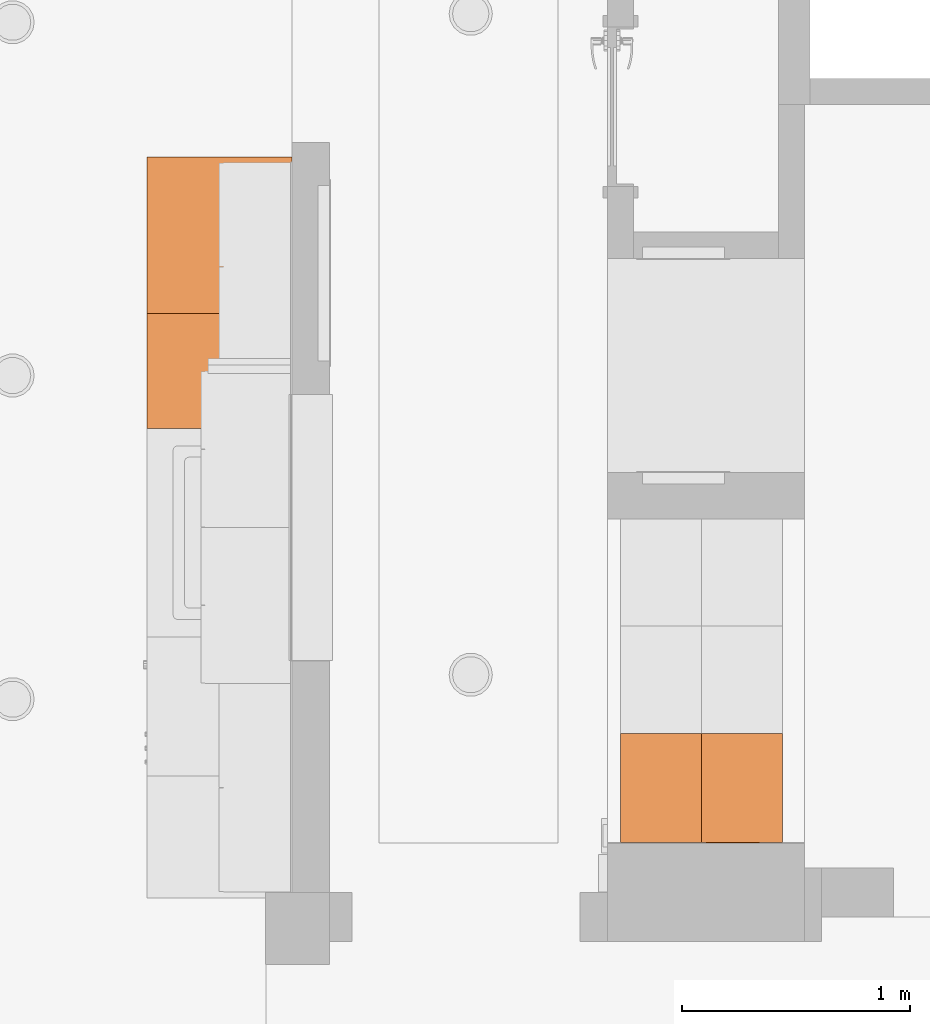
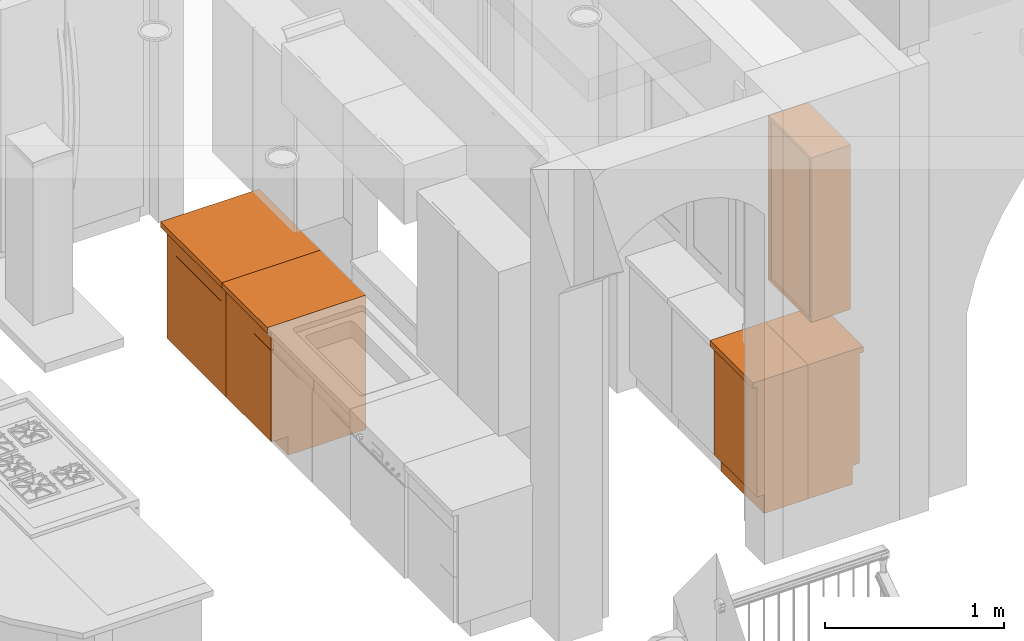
# One storey, part 65 of 77: 5 proxies.
"""IFC2X3 building model written with IfcOpenShell, lengths in inches."""

from ifc_helpers import new_model, entity, si_unit, converted_unit, derived_unit, money_unit, direction, frame, origin_with_axes, place, context, subcontext, project, spatial, faceted_brep, type_object, element, save


model = new_model("IFC2X3")

# Units and contexts
model_context = context("Model", 3, precision=0.000393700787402, world=origin_with_axes(), true_north=direction((0.0, 1.0)))
body_context = subcontext(model_context, "Body", "Model", "MODEL_VIEW")
ifc_project = project(units=[converted_unit("LENGTHUNIT", "INCH", entity("IfcPositiveLengthMeasure", 0.0254), si_unit("LENGTHUNIT", "METRE"), dimensions=[1, 0, 0, 0, 0, 0, 0]), converted_unit("AREAUNIT", "SQUARE_FOOT", entity("IfcPositiveLengthMeasure", 0.09290304), si_unit("AREAUNIT", "SQUARE_METRE"), dimensions=[2, 0, 0, 0, 0, 0, 0]), si_unit("PLANEANGLEUNIT", "RADIAN"), si_unit("SOLIDANGLEUNIT", "STERADIAN"), money_unit("USD"), converted_unit("TIMEUNIT", "Year", entity("IfcTimeMeasure", 31556926.0), si_unit("TIMEUNIT", "SECOND"), dimensions=[0, 0, 1, 0, 0, 0, 0]), si_unit("MASSUNIT", "GRAM", prefix="KILO"), si_unit("THERMODYNAMICTEMPERATUREUNIT", "DEGREE_CELSIUS"), si_unit("LUMINOUSINTENSITYUNIT", "LUMEN"), si_unit("ENERGYUNIT", "JOULE", prefix="MEGA"), derived_unit("THERMALCONDUCTANCEUNIT", [(si_unit("POWERUNIT", "WATT"), 1), (si_unit("LENGTHUNIT", "METRE"), -1), (si_unit("THERMODYNAMICTEMPERATUREUNIT", "KELVIN"), -1)]), derived_unit("SPECIFICHEATCAPACITYUNIT", [(si_unit("ENERGYUNIT", "JOULE"), 1), (si_unit("MASSUNIT", "GRAM", prefix="KILO"), -1), (si_unit("THERMODYNAMICTEMPERATUREUNIT", "KELVIN"), -1)]), derived_unit("MASSDENSITYUNIT", [(si_unit("MASSUNIT", "GRAM", prefix="KILO"), 1), (si_unit("VOLUMEUNIT", "CUBIC_METRE"), -1)])], contexts=[model_context])

# Site, building, storey
site_placement = place(None, origin_with_axes())
site = spatial("IfcSite", under=ifc_project, at=site_placement, Name="Site", CompositionType="ELEMENT")
building_placement = place(site_placement, origin_with_axes())
building = spatial("IfcBuilding", under=site, at=building_placement, Name="Building", CompositionType="ELEMENT")
storey_placement = place(building_placement, frame((0.0, 0.0, 127.952755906), z_axis=(0.0, 0.0, 1.0), x_axis=(1.0, 0.0, 0.0)))
storey = spatial("IfcBuildingStorey", under=building, at=storey_placement, Name="Second Floor", CompositionType="ELEMENT", Elevation=127.953)

# Proxies
building_element_proxy_type_1 = type_object("IfcBuildingElementProxyType", Name="Base Cabinet Block 25", PredefinedType="NOTDEFINED")
proxy_1_placement = place(storey_placement, frame((708.239643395, 218.455837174, 0.0), z_axis=(0.0, 0.0, 1.0), x_axis=(0.0, -1.0, 0.0)))
element("IfcBuildingElementProxy", 1, at=proxy_1_placement, inside=storey, type_object=building_element_proxy_type_1, Name="FU - 004", context=body_context, shape_type="Brep", body=[
    faceted_brep([(0.0, -14.0, 34.4488188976), (0.0, -14.0, 35.9488188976), (-18.8976377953, -14.0, 35.9488188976), (-18.8976377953, -14.0, 34.4488188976), (0.0, 0.0, 34.4488188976), (0.0, 0.0, 35.9488188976), (-18.8976377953, 0.0, 35.9488188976), (-18.8976377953, 0.0, 34.4488188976)], [[[0, 1, 2, 3]], [[4, 5, 1, 0]], [[1, 5, 6, 2]], [[3, 2, 6, 7]], [[0, 3, 7, 4]], [[7, 6, 5, 4]]]),
    faceted_brep([(-0.0393700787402, -12.25, 5.03937007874), (-0.0393700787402, -13.0, 5.03937007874), (-18.8582677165, -13.0, 5.03937007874), (-18.8582677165, -12.25, 5.03937007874), (-0.0393700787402, -12.25, 34.4094488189), (-0.0393700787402, -13.0, 34.4094488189), (-18.8582677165, -13.0, 34.4094488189), (-18.8582677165, -12.25, 34.4094488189)], [[[0, 1, 2, 3]], [[4, 5, 1, 0]], [[1, 5, 6, 2]], [[3, 2, 6, 7]], [[0, 3, 7, 4]], [[7, 6, 5, 4]]]),
    faceted_brep([(-0.75, -12.25, 5.0), (-0.75, -12.25, 5.75), (-18.1476377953, -12.25, 5.75), (-18.1476377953, -12.25, 5.0), (-0.75, 0.0, 5.0), (-0.75, 0.0, 5.75), (-18.1476377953, 0.0, 5.75), (-18.1476377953, 0.0, 5.0)], [[[0, 1, 2, 3]], [[4, 5, 1, 0]], [[1, 5, 6, 2]], [[3, 2, 6, 7]], [[0, 3, 7, 4]], [[7, 6, 5, 4]]]),
    faceted_brep([(-0.75, -12.25, 33.6988188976), (-18.1476377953, -12.25, 33.6988188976), (-18.1476377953, -9.88779527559, 33.6988188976), (-0.75, -9.88779527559, 33.6988188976), (-0.75, -12.25, 34.4488188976), (-18.1476377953, -12.25, 34.4488188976), (-18.1476377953, -9.88779527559, 34.4488188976), (-0.75, -9.88779527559, 34.4488188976)], [[[0, 1, 2, 3]], [[4, 5, 1, 0]], [[1, 5, 6, 2]], [[3, 2, 6, 7]], [[0, 3, 7, 4]], [[7, 6, 5, 4]]]),
    faceted_brep([(-18.1476377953, 0.0, 33.6988188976), (-0.75, 0.0, 33.6988188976), (-0.75, -2.36220472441, 33.6988188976), (-18.1476377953, -2.36220472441, 33.6988188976), (-18.1476377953, 0.0, 34.4488188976), (-0.75, 0.0, 34.4488188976), (-0.75, -2.36220472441, 34.4488188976), (-18.1476377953, -2.36220472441, 34.4488188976)], [[[0, 1, 2, 3]], [[4, 5, 1, 0]], [[1, 5, 6, 2]], [[3, 2, 6, 7]], [[0, 3, 7, 4]], [[7, 6, 5, 4]]]),
    faceted_brep([(0.0, 0.0, 5.0), (0.0, 0.0, 34.4488188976), (0.0, -12.25, 34.4488188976), (0.0, -12.25, 5.0), (-0.75, 0.0, 5.0), (-0.75, 0.0, 34.4488188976), (-0.75, -12.25, 34.4488188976), (-0.75, -12.25, 5.0)], [[[0, 1, 2, 3]], [[4, 5, 1, 0]], [[1, 5, 6, 2]], [[3, 2, 6, 7]], [[0, 3, 7, 4]], [[7, 6, 5, 4]]]),
    faceted_brep([(-18.8976377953, -12.25, 5.0), (-18.8976377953, -12.25, 34.4488188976), (-18.8976377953, 0.0, 34.4488188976), (-18.8976377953, 0.0, 5.0), (-18.1476377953, -12.25, 5.0), (-18.1476377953, -12.25, 34.4488188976), (-18.1476377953, 0.0, 34.4488188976), (-18.1476377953, 0.0, 5.0)], [[[0, 1, 2, 3]], [[4, 5, 1, 0]], [[1, 5, 6, 2]], [[3, 2, 6, 7]], [[0, 3, 7, 4]], [[7, 6, 5, 4]]]),
    faceted_brep([(-18.1476377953, -0.375, 5.75), (-18.1476377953, -0.375, 33.6988188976), (-0.75, -0.375, 33.6988188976), (-0.75, -0.375, 5.75), (-18.1476377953, -0.75, 5.75), (-18.1476377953, -0.75, 33.6988188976), (-0.75, -0.75, 33.6988188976), (-0.75, -0.75, 5.75)], [[[0, 1, 2, 3]], [[4, 5, 1, 0]], [[1, 5, 6, 2]], [[3, 2, 6, 7]], [[0, 3, 7, 4]], [[7, 6, 5, 4]]]),
    faceted_brep([(0.0, -11.25, 0.0), (0.0, -11.25, 5.0), (-18.8976377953, -11.25, 5.0), (-18.8976377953, -11.25, 0.0), (0.0, 0.0, 0.0), (0.0, 0.0, 5.0), (-18.8976377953, 0.0, 5.0), (-18.8976377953, 0.0, 0.0)], [[[0, 1, 2, 3]], [[4, 5, 1, 0]], [[1, 5, 6, 2]], [[3, 2, 6, 7]], [[0, 3, 7, 4]], [[7, 6, 5, 4]]]),
])
proxy_2_placement = place(storey_placement, frame((708.239643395, 218.455837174, 0.0), z_axis=(0.0, 0.0, 1.0), x_axis=(0.0, 1.0, 0.0)))
element("IfcBuildingElementProxy", 2, at=proxy_2_placement, inside=storey, type_object=building_element_proxy_type_1, Name="FU - 004", context=body_context, shape_type="Brep", body=[
    faceted_brep([(0.0, -14.0, 34.4488188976), (18.8976377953, -14.0, 34.4488188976), (18.8976377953, -14.0, 35.9488188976), (0.0, -14.0, 35.9488188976), (0.0, 0.0, 34.4488188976), (18.8976377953, 0.0, 34.4488188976), (18.8976377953, 0.0, 35.9488188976), (0.0, 0.0, 35.9488188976)], [[[0, 1, 2, 3]], [[0, 4, 5, 1]], [[1, 5, 6, 2]], [[3, 2, 6, 7]], [[4, 0, 3, 7]], [[5, 4, 7, 6]]]),
    faceted_brep([(0.0393700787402, -12.25, 5.03937007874), (18.8582677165, -12.25, 5.03937007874), (18.8582677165, -13.0, 5.03937007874), (0.0393700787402, -13.0, 5.03937007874), (0.0393700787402, -12.25, 34.4094488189), (18.8582677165, -12.25, 34.4094488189), (18.8582677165, -13.0, 34.4094488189), (0.0393700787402, -13.0, 34.4094488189)], [[[0, 1, 2, 3]], [[0, 4, 5, 1]], [[1, 5, 6, 2]], [[3, 2, 6, 7]], [[4, 0, 3, 7]], [[5, 4, 7, 6]]]),
    faceted_brep([(0.75, -12.25, 5.0), (18.1476377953, -12.25, 5.0), (18.1476377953, -12.25, 5.75), (0.75, -12.25, 5.75), (0.75, 0.0, 5.0), (18.1476377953, 0.0, 5.0), (18.1476377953, 0.0, 5.75), (0.75, 0.0, 5.75)], [[[0, 1, 2, 3]], [[0, 4, 5, 1]], [[1, 5, 6, 2]], [[3, 2, 6, 7]], [[4, 0, 3, 7]], [[5, 4, 7, 6]]]),
    faceted_brep([(0.75, -12.25, 33.6988188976), (0.75, -9.88779527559, 33.6988188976), (18.1476377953, -9.88779527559, 33.6988188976), (18.1476377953, -12.25, 33.6988188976), (0.75, -12.25, 34.4488188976), (0.75, -9.88779527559, 34.4488188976), (18.1476377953, -9.88779527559, 34.4488188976), (18.1476377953, -12.25, 34.4488188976)], [[[0, 1, 2, 3]], [[0, 4, 5, 1]], [[1, 5, 6, 2]], [[3, 2, 6, 7]], [[4, 0, 3, 7]], [[5, 4, 7, 6]]]),
    faceted_brep([(18.1476377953, 0.0, 33.6988188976), (18.1476377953, -2.36220472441, 33.6988188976), (0.75, -2.36220472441, 33.6988188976), (0.75, 0.0, 33.6988188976), (18.1476377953, 0.0, 34.4488188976), (18.1476377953, -2.36220472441, 34.4488188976), (0.75, -2.36220472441, 34.4488188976), (0.75, 0.0, 34.4488188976)], [[[0, 1, 2, 3]], [[0, 4, 5, 1]], [[1, 5, 6, 2]], [[3, 2, 6, 7]], [[4, 0, 3, 7]], [[5, 4, 7, 6]]]),
    faceted_brep([(0.0, 0.0, 5.0), (0.0, -12.25, 5.0), (0.0, -12.25, 34.4488188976), (0.0, 0.0, 34.4488188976), (0.75, 0.0, 5.0), (0.75, -12.25, 5.0), (0.75, -12.25, 34.4488188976), (0.75, 0.0, 34.4488188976)], [[[0, 1, 2, 3]], [[0, 4, 5, 1]], [[1, 5, 6, 2]], [[3, 2, 6, 7]], [[4, 0, 3, 7]], [[5, 4, 7, 6]]]),
    faceted_brep([(18.8976377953, -12.25, 5.0), (18.8976377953, 0.0, 5.0), (18.8976377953, 0.0, 34.4488188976), (18.8976377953, -12.25, 34.4488188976), (18.1476377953, -12.25, 5.0), (18.1476377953, 0.0, 5.0), (18.1476377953, 0.0, 34.4488188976), (18.1476377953, -12.25, 34.4488188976)], [[[0, 1, 2, 3]], [[0, 4, 5, 1]], [[1, 5, 6, 2]], [[3, 2, 6, 7]], [[4, 0, 3, 7]], [[5, 4, 7, 6]]]),
    faceted_brep([(18.1476377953, -0.375, 5.75), (0.75, -0.375, 5.75), (0.75, -0.375, 33.6988188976), (18.1476377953, -0.375, 33.6988188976), (18.1476377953, -0.75, 5.75), (0.75, -0.75, 5.75), (0.75, -0.75, 33.6988188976), (18.1476377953, -0.75, 33.6988188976)], [[[0, 1, 2, 3]], [[0, 4, 5, 1]], [[1, 5, 6, 2]], [[3, 2, 6, 7]], [[4, 0, 3, 7]], [[5, 4, 7, 6]]]),
    faceted_brep([(0.0, -11.25, 0.0), (18.8976377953, -11.25, 0.0), (18.8976377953, -11.25, 5.0), (0.0, -11.25, 5.0), (0.0, 0.0, 0.0), (18.8976377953, 0.0, 0.0), (18.8976377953, 0.0, 5.0), (0.0, 0.0, 5.0)], [[[0, 1, 2, 3]], [[0, 4, 5, 1]], [[1, 5, 6, 2]], [[3, 2, 6, 7]], [[4, 0, 3, 7]], [[5, 4, 7, 6]]]),
])
proxy_3_placement = place(storey_placement, frame((637.475937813, 336.875676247, 0.0), z_axis=(0.0, 0.0, 1.0), x_axis=(0.0, -1.0, 0.0)))
element("IfcBuildingElementProxy", 3, at=proxy_3_placement, inside=storey, type_object=building_element_proxy_type_1, Name="OBJ-16", context=body_context, shape_type="Brep", body=[
    faceted_brep([(0.0, -25.0, 34.5236220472), (26.968503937, -25.0, 34.5236220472), (26.968503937, -25.0, 36.0236220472), (0.0, -25.0, 36.0236220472), (0.0, 0.0, 34.5236220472), (26.968503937, 0.0, 34.5236220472), (26.968503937, 0.0, 36.0236220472), (0.0, 0.0, 36.0236220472)], [[[0, 1, 2, 3]], [[0, 4, 5, 1]], [[1, 5, 6, 2]], [[3, 2, 6, 7]], [[4, 0, 3, 7]], [[5, 4, 7, 6]]]),
    faceted_brep([(1.7342519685, -23.25, 29.125), (26.218503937, -23.25, 29.125), (26.218503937, -23.25, 29.875), (1.7342519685, -23.25, 29.875), (1.7342519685, -0.75, 29.125), (26.218503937, -0.75, 29.125), (26.218503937, -0.75, 29.875), (1.7342519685, -0.75, 29.875)], [[[0, 1, 2, 3]], [[0, 4, 5, 1]], [[1, 5, 6, 2]], [[3, 2, 6, 7]], [[4, 0, 3, 7]], [[5, 4, 7, 6]]]),
    faceted_brep([(26.0216535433, -23.25, 30.0718503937), (1.9311023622, -23.25, 30.0718503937), (1.9311023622, -0.75, 30.0718503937), (26.0216535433, -0.75, 30.0718503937), (26.0216535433, -23.25, 30.4655511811), (1.9311023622, -23.25, 30.4655511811), (1.9311023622, -0.75, 30.4655511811), (26.0216535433, -0.75, 30.4655511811)], [[[0, 1, 2, 3]], [[1, 0, 4, 5]], [[2, 1, 5, 6]], [[3, 2, 6, 7]], [[0, 3, 7, 4]], [[5, 4, 7, 6]]]),
    faceted_brep([(2.71850393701, -23.25, 30.4655511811), (1.9311023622, -23.25, 30.4655511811), (1.9311023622, -0.75, 30.4655511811), (2.71850393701, -0.75, 30.4655511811), (2.71850393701, -23.25, 33.5767716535), (1.9311023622, -23.25, 33.5767716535), (1.9311023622, -0.75, 33.5767716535), (2.71850393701, -0.75, 33.5767716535)], [[[0, 1, 2, 3]], [[1, 0, 4, 5]], [[2, 1, 5, 6]], [[3, 2, 6, 7]], [[0, 3, 7, 4]], [[5, 4, 7, 6]]]),
    faceted_brep([(26.0216535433, -23.25, 30.4655511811), (25.2342519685, -23.25, 30.4655511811), (25.2342519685, -0.75, 30.4655511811), (26.0216535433, -0.75, 30.4655511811), (26.0216535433, -23.25, 33.5767716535), (25.2342519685, -23.25, 33.5767716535), (25.2342519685, -0.75, 33.5767716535), (26.0216535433, -0.75, 33.5767716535)], [[[0, 1, 2, 3]], [[1, 0, 4, 5]], [[2, 1, 5, 6]], [[3, 2, 6, 7]], [[0, 3, 7, 4]], [[5, 4, 7, 6]]]),
    faceted_brep([(25.2342519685, -1.3405511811, 30.4655511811), (2.71850393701, -1.3405511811, 30.4655511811), (2.71850393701, -0.946850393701, 30.4655511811), (25.2342519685, -0.946850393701, 30.4655511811), (25.2342519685, -1.3405511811, 33.5767716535), (2.71850393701, -1.3405511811, 33.5767716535), (2.71850393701, -0.946850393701, 33.5767716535), (25.2342519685, -0.946850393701, 33.5767716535)], [[[0, 1, 2, 3]], [[1, 0, 4, 5]], [[2, 1, 5, 6]], [[3, 2, 6, 7]], [[0, 3, 7, 4]], [[5, 4, 7, 6]]]),
    faceted_brep([(1.02362204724, -23.25, 5.03937007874), (13.937007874, -23.25, 5.03937007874), (13.937007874, -24.0, 5.03937007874), (1.02362204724, -24.0, 5.03937007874), (1.02362204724, -23.25, 29.4606299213), (13.937007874, -23.25, 29.4606299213), (13.937007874, -24.0, 29.4606299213), (1.02362204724, -24.0, 29.4606299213)], [[[0, 1, 2, 3]], [[0, 4, 5, 1]], [[1, 5, 6, 2]], [[3, 2, 6, 7]], [[4, 0, 3, 7]], [[5, 4, 7, 6]]]),
    faceted_brep([(26.9291338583, -23.25, 5.03937007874), (26.9291338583, -24.0, 5.03937007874), (14.0157480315, -24.0, 5.03937007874), (14.0157480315, -23.25, 5.03937007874), (26.9291338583, -23.25, 29.4606299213), (26.9291338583, -24.0, 29.4606299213), (14.0157480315, -24.0, 29.4606299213), (14.0157480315, -23.25, 29.4606299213)], [[[0, 1, 2, 3]], [[4, 5, 1, 0]], [[1, 5, 6, 2]], [[3, 2, 6, 7]], [[0, 3, 7, 4]], [[7, 6, 5, 4]]]),
    faceted_brep([(1.02362204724, -23.25, 29.5393700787), (26.9291338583, -23.25, 29.5393700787), (26.9291338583, -24.0, 29.5393700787), (1.02362204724, -24.0, 29.5393700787), (1.02362204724, -23.25, 34.4842519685), (26.9291338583, -23.25, 34.4842519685), (26.9291338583, -24.0, 34.4842519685), (1.02362204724, -24.0, 34.4842519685)], [[[0, 1, 2, 3]], [[0, 4, 5, 1]], [[1, 5, 6, 2]], [[3, 2, 6, 7]], [[4, 0, 3, 7]], [[5, 4, 7, 6]]]),
    faceted_brep([(0.984251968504, -0.0393700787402, 5.03937007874), (0.984251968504, -23.2106299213, 5.03937007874), (0.196850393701, -23.2106299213, 5.03937007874), (0.196850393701, -0.0393700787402, 5.03937007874), (0.984251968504, -0.0393700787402, 34.4842519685), (0.984251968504, -23.2106299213, 34.4842519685), (0.196850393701, -23.2106299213, 34.4842519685), (0.196850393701, -0.0393700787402, 34.4842519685)], [[[0, 1, 2, 3]], [[0, 4, 5, 1]], [[1, 5, 6, 2]], [[3, 2, 6, 7]], [[4, 0, 3, 7]], [[5, 4, 7, 6]]]),
    faceted_brep([(1.7342519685, -23.25, 5.0), (26.218503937, -23.25, 5.0), (26.218503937, -23.25, 5.75), (1.7342519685, -23.25, 5.75), (1.7342519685, 0.0, 5.0), (26.218503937, 0.0, 5.0), (26.218503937, 0.0, 5.75), (1.7342519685, 0.0, 5.75)], [[[0, 1, 2, 3]], [[0, 4, 5, 1]], [[1, 5, 6, 2]], [[3, 2, 6, 7]], [[4, 0, 3, 7]], [[5, 4, 7, 6]]]),
    faceted_brep([(1.7342519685, -23.25, 33.7736220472), (1.7342519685, -20.8877952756, 33.7736220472), (26.218503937, -20.8877952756, 33.7736220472), (26.218503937, -23.25, 33.7736220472), (1.7342519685, -23.25, 34.5236220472), (1.7342519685, -20.8877952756, 34.5236220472), (26.218503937, -20.8877952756, 34.5236220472), (26.218503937, -23.25, 34.5236220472)], [[[0, 1, 2, 3]], [[0, 4, 5, 1]], [[1, 5, 6, 2]], [[3, 2, 6, 7]], [[4, 0, 3, 7]], [[5, 4, 7, 6]]]),
    faceted_brep([(26.218503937, 0.0, 33.7736220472), (26.218503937, -2.36220472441, 33.7736220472), (1.7342519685, -2.36220472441, 33.7736220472), (1.7342519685, 0.0, 33.7736220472), (26.218503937, 0.0, 34.5236220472), (26.218503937, -2.36220472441, 34.5236220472), (1.7342519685, -2.36220472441, 34.5236220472), (1.7342519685, 0.0, 34.5236220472)], [[[0, 1, 2, 3]], [[0, 4, 5, 1]], [[1, 5, 6, 2]], [[3, 2, 6, 7]], [[4, 0, 3, 7]], [[5, 4, 7, 6]]]),
    faceted_brep([(0.984251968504, 0.0, 5.0), (0.984251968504, -23.25, 5.0), (0.984251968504, -23.25, 34.5236220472), (0.984251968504, 0.0, 34.5236220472), (1.7342519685, 0.0, 5.0), (1.7342519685, -23.25, 5.0), (1.7342519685, -23.25, 34.5236220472), (1.7342519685, 0.0, 34.5236220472)], [[[0, 1, 2, 3]], [[0, 4, 5, 1]], [[1, 5, 6, 2]], [[3, 2, 6, 7]], [[4, 0, 3, 7]], [[5, 4, 7, 6]]]),
    faceted_brep([(26.968503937, -23.25, 5.0), (26.968503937, 0.0, 5.0), (26.968503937, 0.0, 34.5236220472), (26.968503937, -23.25, 34.5236220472), (26.218503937, -23.25, 5.0), (26.218503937, 0.0, 5.0), (26.218503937, 0.0, 34.5236220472), (26.218503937, -23.25, 34.5236220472)], [[[0, 1, 2, 3]], [[0, 4, 5, 1]], [[1, 5, 6, 2]], [[3, 2, 6, 7]], [[4, 0, 3, 7]], [[5, 4, 7, 6]]]),
    faceted_brep([(26.218503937, -0.375, 5.75), (1.7342519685, -0.375, 5.75), (1.7342519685, -0.375, 33.7736220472), (26.218503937, -0.375, 33.7736220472), (26.218503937, -0.75, 5.75), (1.7342519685, -0.75, 5.75), (1.7342519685, -0.75, 33.7736220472), (26.218503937, -0.75, 33.7736220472)], [[[0, 1, 2, 3]], [[0, 4, 5, 1]], [[1, 5, 6, 2]], [[3, 2, 6, 7]], [[4, 0, 3, 7]], [[5, 4, 7, 6]]]),
    faceted_brep([(0.984251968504, -19.75, 0.0), (26.968503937, -19.75, 0.0), (26.968503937, -19.75, 5.0), (0.984251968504, -19.75, 5.0), (0.984251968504, 0.0, 0.0), (26.968503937, 0.0, 0.0), (26.968503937, 0.0, 5.0), (0.984251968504, 0.0, 5.0)], [[[0, 1, 2, 3]], [[0, 4, 5, 1]], [[1, 5, 6, 2]], [[3, 2, 6, 7]], [[4, 0, 3, 7]], [[5, 4, 7, 6]]]),
])
proxy_4_placement = place(storey_placement, frame((637.474370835, 309.90717231, 0.0), z_axis=(0.0, 0.0, 1.0), x_axis=(0.0, -1.0, 0.0)))
element("IfcBuildingElementProxy", 4, at=proxy_4_placement, inside=storey, type_object=building_element_proxy_type_1, Name="OBJ-16", context=body_context, shape_type="Brep", body=[
    faceted_brep([(0.0, -25.0, 34.5236220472), (19.8818897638, -25.0, 34.5236220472), (19.8818897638, -25.0, 36.0236220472), (0.0, -25.0, 36.0236220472), (0.0, 0.0, 34.5236220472), (19.8818897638, 0.0, 34.5236220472), (19.8818897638, 0.0, 36.0236220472), (0.0, 0.0, 36.0236220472)], [[[0, 1, 2, 3]], [[0, 4, 5, 1]], [[1, 5, 6, 2]], [[3, 2, 6, 7]], [[4, 0, 3, 7]], [[5, 4, 7, 6]]]),
    faceted_brep([(0.75, -23.25, 29.125), (19.1318897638, -23.25, 29.125), (19.1318897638, -23.25, 29.875), (0.75, -23.25, 29.875), (0.75, -0.75, 29.125), (19.1318897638, -0.75, 29.125), (19.1318897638, -0.75, 29.875), (0.75, -0.75, 29.875)], [[[0, 1, 2, 3]], [[0, 4, 5, 1]], [[1, 5, 6, 2]], [[3, 2, 6, 7]], [[4, 0, 3, 7]], [[5, 4, 7, 6]]]),
    faceted_brep([(18.9350393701, -23.25, 30.0718503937), (0.946850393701, -23.25, 30.0718503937), (0.946850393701, -0.75, 30.0718503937), (18.9350393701, -0.75, 30.0718503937), (18.9350393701, -23.25, 30.4655511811), (0.946850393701, -23.25, 30.4655511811), (0.946850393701, -0.75, 30.4655511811), (18.9350393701, -0.75, 30.4655511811)], [[[0, 1, 2, 3]], [[1, 0, 4, 5]], [[2, 1, 5, 6]], [[3, 2, 6, 7]], [[0, 3, 7, 4]], [[5, 4, 7, 6]]]),
    faceted_brep([(1.7342519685, -23.25, 30.4655511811), (0.946850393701, -23.25, 30.4655511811), (0.946850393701, -0.75, 30.4655511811), (1.7342519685, -0.75, 30.4655511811), (1.7342519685, -23.25, 33.5767716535), (0.946850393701, -23.25, 33.5767716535), (0.946850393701, -0.75, 33.5767716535), (1.7342519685, -0.75, 33.5767716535)], [[[0, 1, 2, 3]], [[1, 0, 4, 5]], [[2, 1, 5, 6]], [[3, 2, 6, 7]], [[0, 3, 7, 4]], [[5, 4, 7, 6]]]),
    faceted_brep([(18.9350393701, -23.25, 30.4655511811), (18.1476377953, -23.25, 30.4655511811), (18.1476377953, -0.75, 30.4655511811), (18.9350393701, -0.75, 30.4655511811), (18.9350393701, -23.25, 33.5767716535), (18.1476377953, -23.25, 33.5767716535), (18.1476377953, -0.75, 33.5767716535), (18.9350393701, -0.75, 33.5767716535)], [[[0, 1, 2, 3]], [[1, 0, 4, 5]], [[2, 1, 5, 6]], [[3, 2, 6, 7]], [[0, 3, 7, 4]], [[5, 4, 7, 6]]]),
    faceted_brep([(18.1476377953, -1.3405511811, 30.4655511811), (1.7342519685, -1.3405511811, 30.4655511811), (1.7342519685, -0.946850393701, 30.4655511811), (18.1476377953, -0.946850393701, 30.4655511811), (18.1476377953, -1.3405511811, 33.5767716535), (1.7342519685, -1.3405511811, 33.5767716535), (1.7342519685, -0.946850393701, 33.5767716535), (18.1476377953, -0.946850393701, 33.5767716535)], [[[0, 1, 2, 3]], [[1, 0, 4, 5]], [[2, 1, 5, 6]], [[3, 2, 6, 7]], [[0, 3, 7, 4]], [[5, 4, 7, 6]]]),
    faceted_brep([(0.0393700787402, -23.25, 5.03937007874), (19.842519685, -23.25, 5.03937007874), (19.842519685, -24.0, 5.03937007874), (0.0393700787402, -24.0, 5.03937007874), (0.0393700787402, -23.25, 29.4606299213), (19.842519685, -23.25, 29.4606299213), (19.842519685, -24.0, 29.4606299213), (0.0393700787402, -24.0, 29.4606299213)], [[[0, 1, 2, 3]], [[0, 4, 5, 1]], [[1, 5, 6, 2]], [[3, 2, 6, 7]], [[4, 0, 3, 7]], [[5, 4, 7, 6]]]),
    faceted_brep([(0.0393700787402, -23.25, 29.5393700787), (19.842519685, -23.25, 29.5393700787), (19.842519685, -24.0, 29.5393700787), (0.0393700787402, -24.0, 29.5393700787), (0.0393700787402, -23.25, 34.4842519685), (19.842519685, -23.25, 34.4842519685), (19.842519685, -24.0, 34.4842519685), (0.0393700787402, -24.0, 34.4842519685)], [[[0, 1, 2, 3]], [[0, 4, 5, 1]], [[1, 5, 6, 2]], [[3, 2, 6, 7]], [[4, 0, 3, 7]], [[5, 4, 7, 6]]]),
    faceted_brep([(0.75, -23.25, 5.0), (19.1318897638, -23.25, 5.0), (19.1318897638, -23.25, 5.75), (0.75, -23.25, 5.75), (0.75, 0.0, 5.0), (19.1318897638, 0.0, 5.0), (19.1318897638, 0.0, 5.75), (0.75, 0.0, 5.75)], [[[0, 1, 2, 3]], [[0, 4, 5, 1]], [[1, 5, 6, 2]], [[3, 2, 6, 7]], [[4, 0, 3, 7]], [[5, 4, 7, 6]]]),
    faceted_brep([(0.75, -23.25, 33.7736220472), (0.75, -20.8877952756, 33.7736220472), (19.1318897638, -20.8877952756, 33.7736220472), (19.1318897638, -23.25, 33.7736220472), (0.75, -23.25, 34.5236220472), (0.75, -20.8877952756, 34.5236220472), (19.1318897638, -20.8877952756, 34.5236220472), (19.1318897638, -23.25, 34.5236220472)], [[[0, 1, 2, 3]], [[0, 4, 5, 1]], [[1, 5, 6, 2]], [[3, 2, 6, 7]], [[4, 0, 3, 7]], [[5, 4, 7, 6]]]),
    faceted_brep([(19.1318897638, 0.0, 33.7736220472), (19.1318897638, -2.36220472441, 33.7736220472), (0.75, -2.36220472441, 33.7736220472), (0.75, 0.0, 33.7736220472), (19.1318897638, 0.0, 34.5236220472), (19.1318897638, -2.36220472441, 34.5236220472), (0.75, -2.36220472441, 34.5236220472), (0.75, 0.0, 34.5236220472)], [[[0, 1, 2, 3]], [[0, 4, 5, 1]], [[1, 5, 6, 2]], [[3, 2, 6, 7]], [[4, 0, 3, 7]], [[5, 4, 7, 6]]]),
    faceted_brep([(0.0, 0.0, 5.0), (0.0, -23.25, 5.0), (0.0, -23.25, 34.5236220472), (0.0, 0.0, 34.5236220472), (0.75, 0.0, 5.0), (0.75, -23.25, 5.0), (0.75, -23.25, 34.5236220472), (0.75, 0.0, 34.5236220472)], [[[0, 1, 2, 3]], [[0, 4, 5, 1]], [[1, 5, 6, 2]], [[3, 2, 6, 7]], [[4, 0, 3, 7]], [[5, 4, 7, 6]]]),
    faceted_brep([(19.8818897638, -23.25, 5.0), (19.8818897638, 0.0, 5.0), (19.8818897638, 0.0, 34.5236220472), (19.8818897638, -23.25, 34.5236220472), (19.1318897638, -23.25, 5.0), (19.1318897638, 0.0, 5.0), (19.1318897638, 0.0, 34.5236220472), (19.1318897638, -23.25, 34.5236220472)], [[[0, 1, 2, 3]], [[0, 4, 5, 1]], [[1, 5, 6, 2]], [[3, 2, 6, 7]], [[4, 0, 3, 7]], [[5, 4, 7, 6]]]),
    faceted_brep([(19.1318897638, -0.375, 5.75), (0.75, -0.375, 5.75), (0.75, -0.375, 33.7736220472), (19.1318897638, -0.375, 33.7736220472), (19.1318897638, -0.75, 5.75), (0.75, -0.75, 5.75), (0.75, -0.75, 33.7736220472), (19.1318897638, -0.75, 33.7736220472)], [[[0, 1, 2, 3]], [[0, 4, 5, 1]], [[1, 5, 6, 2]], [[3, 2, 6, 7]], [[4, 0, 3, 7]], [[5, 4, 7, 6]]]),
    faceted_brep([(0.0, -19.75, 0.0), (19.8818897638, -19.75, 0.0), (19.8818897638, -19.75, 5.0), (0.0, -19.75, 5.0), (0.0, 0.0, 0.0), (19.8818897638, 0.0, 0.0), (19.8818897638, 0.0, 5.0), (0.0, 0.0, 5.0)], [[[0, 1, 2, 3]], [[0, 4, 5, 1]], [[1, 5, 6, 2]], [[3, 2, 6, 7]], [[4, 0, 3, 7]], [[5, 4, 7, 6]]]),
])
building_element_proxy_type_2 = type_object("IfcBuildingElementProxyType", Name="Wall Cabinet Block 25", PredefinedType="NOTDEFINED")
proxy_5_placement = place(storey_placement, frame((708.989643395, 218.433635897, -12.9527559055), z_axis=(0.0, 0.0, 1.0), x_axis=(0.0, 1.0, 0.0)))
element("IfcBuildingElementProxy", 5, at=proxy_5_placement, inside=storey, type_object=building_element_proxy_type_2, Name="FU - 005", context=body_context, shape_type="Brep", body=[
    faceted_brep([(0.75, -9.28937007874, 70.8361220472), (18.1476377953, -9.28937007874, 70.8361220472), (18.1476377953, -9.28937007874, 71.5861220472), (0.75, -9.28937007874, 71.5861220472), (0.75, -0.75, 70.8361220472), (18.1476377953, -0.75, 70.8361220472), (18.1476377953, -0.75, 71.5861220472), (0.75, -0.75, 71.5861220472)], [[[0, 1, 2, 3]], [[0, 4, 5, 1]], [[1, 5, 6, 2]], [[3, 2, 6, 7]], [[4, 0, 3, 7]], [[5, 4, 7, 6]]]),
    faceted_brep([(0.75, -9.28937007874, 81.6722440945), (18.1476377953, -9.28937007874, 81.6722440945), (18.1476377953, -9.28937007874, 82.4222440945), (0.75, -9.28937007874, 82.4222440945), (0.75, -0.75, 81.6722440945), (18.1476377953, -0.75, 81.6722440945), (18.1476377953, -0.75, 82.4222440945), (0.75, -0.75, 82.4222440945)], [[[0, 1, 2, 3]], [[0, 4, 5, 1]], [[1, 5, 6, 2]], [[3, 2, 6, 7]], [[4, 0, 3, 7]], [[5, 4, 7, 6]]]),
    faceted_brep([(0.75, -9.28937007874, 92.5083661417), (18.1476377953, -9.28937007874, 92.5083661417), (18.1476377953, -9.28937007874, 93.2583661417), (0.75, -9.28937007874, 93.2583661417), (0.75, -0.75, 92.5083661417), (18.1476377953, -0.75, 92.5083661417), (18.1476377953, -0.75, 93.2583661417), (0.75, -0.75, 93.2583661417)], [[[0, 1, 2, 3]], [[0, 4, 5, 1]], [[1, 5, 6, 2]], [[3, 2, 6, 7]], [[4, 0, 3, 7]], [[5, 4, 7, 6]]]),
    faceted_brep([(0.0393700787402, -10.0393700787, 60.0393700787), (0.0393700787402, -10.0393700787, 104.05511811), (0.0393700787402, -9.28937007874, 104.05511811), (0.0393700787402, -9.28937007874, 60.0393700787), (3.03937007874, -10.0393700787, 63.0393700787), (3.03937007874, -10.0393700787, 101.05511811), (3.03937007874, -9.28937007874, 101.05511811), (3.03937007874, -9.28937007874, 63.0393700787)], [[[0, 1, 2, 3]], [[1, 0, 4, 5]], [[2, 1, 5, 6]], [[3, 2, 6, 7]], [[0, 3, 7, 4]], [[5, 4, 7, 6]]]),
    faceted_brep([(15.8582677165, -10.0393700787, 63.0393700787), (15.8582677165, -10.0393700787, 101.05511811), (15.8582677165, -9.28937007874, 101.05511811), (15.8582677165, -9.28937007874, 63.0393700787), (18.8582677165, -10.0393700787, 60.0393700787), (18.8582677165, -10.0393700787, 104.05511811), (18.8582677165, -9.28937007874, 104.05511811), (18.8582677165, -9.28937007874, 60.0393700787)], [[[0, 1, 2, 3]], [[1, 0, 4, 5]], [[2, 1, 5, 6]], [[3, 2, 6, 7]], [[0, 3, 7, 4]], [[5, 4, 7, 6]]]),
    faceted_brep([(0.0393700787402, -9.28937007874, 60.0393700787), (0.0393700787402, -10.0393700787, 60.0393700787), (3.03937007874, -10.0393700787, 63.0393700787), (3.03937007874, -9.28937007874, 63.0393700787), (18.8582677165, -9.28937007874, 60.0393700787), (18.8582677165, -10.0393700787, 60.0393700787), (15.8582677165, -10.0393700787, 63.0393700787), (15.8582677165, -9.28937007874, 63.0393700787)], [[[0, 1, 2, 3]], [[1, 0, 4, 5]], [[2, 1, 5, 6]], [[7, 3, 2, 6]], [[0, 3, 7, 4]], [[7, 6, 5, 4]]]),
    faceted_brep([(0.0393700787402, -10.0393700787, 104.05511811), (0.0393700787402, -9.28937007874, 104.05511811), (3.03937007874, -9.28937007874, 101.05511811), (3.03937007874, -10.0393700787, 101.05511811), (18.8582677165, -10.0393700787, 104.05511811), (18.8582677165, -9.28937007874, 104.05511811), (15.8582677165, -9.28937007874, 101.05511811), (15.8582677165, -10.0393700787, 101.05511811)], [[[0, 1, 2, 3]], [[1, 0, 4, 5]], [[2, 1, 5, 6]], [[2, 6, 7, 3]], [[0, 3, 7, 4]], [[7, 6, 5, 4]]]),
    faceted_brep([(15.8582677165, -9.47687007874, 63.0393700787), (3.03937007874, -9.47687007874, 63.0393700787), (3.03937007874, -9.47687007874, 101.05511811), (15.8582677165, -9.47687007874, 101.05511811), (15.8582677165, -9.85187007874, 63.0393700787), (3.03937007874, -9.85187007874, 63.0393700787), (3.03937007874, -9.85187007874, 101.05511811), (15.8582677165, -9.85187007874, 101.05511811)], [[[0, 1, 2, 3]], [[1, 0, 4, 5]], [[2, 1, 5, 6]], [[3, 2, 6, 7]], [[0, 3, 7, 4]], [[5, 4, 7, 6]]]),
    faceted_brep([(0.75, -9.28937007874, 60.0), (18.1476377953, -9.28937007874, 60.0), (18.1476377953, -9.28937007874, 60.75), (0.75, -9.28937007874, 60.75), (0.75, 0.0, 60.0), (18.1476377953, 0.0, 60.0), (18.1476377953, 0.0, 60.75), (0.75, 0.0, 60.75)], [[[0, 1, 2, 3]], [[0, 4, 5, 1]], [[1, 5, 6, 2]], [[3, 2, 6, 7]], [[4, 0, 3, 7]], [[5, 4, 7, 6]]]),
    faceted_brep([(0.75, -9.28937007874, 103.344488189), (18.1476377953, -9.28937007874, 103.344488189), (18.1476377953, -9.28937007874, 104.094488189), (0.75, -9.28937007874, 104.094488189), (0.75, 0.0, 103.344488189), (18.1476377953, 0.0, 103.344488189), (18.1476377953, 0.0, 104.094488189), (0.75, 0.0, 104.094488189)], [[[0, 1, 2, 3]], [[0, 4, 5, 1]], [[1, 5, 6, 2]], [[3, 2, 6, 7]], [[4, 0, 3, 7]], [[5, 4, 7, 6]]]),
    faceted_brep([(0.0, 0.0, 60.0), (0.0, -9.28937007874, 60.0), (0.0, -9.28937007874, 104.094488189), (0.0, 0.0, 104.094488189), (0.75, 0.0, 60.0), (0.75, -9.28937007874, 60.0), (0.75, -9.28937007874, 104.094488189), (0.75, 0.0, 104.094488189)], [[[0, 1, 2, 3]], [[0, 4, 5, 1]], [[1, 5, 6, 2]], [[3, 2, 6, 7]], [[4, 0, 3, 7]], [[5, 4, 7, 6]]]),
    faceted_brep([(18.8976377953, -9.28937007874, 60.0), (18.8976377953, 0.0, 60.0), (18.8976377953, 0.0, 104.094488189), (18.8976377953, -9.28937007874, 104.094488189), (18.1476377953, -9.28937007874, 60.0), (18.1476377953, 0.0, 60.0), (18.1476377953, 0.0, 104.094488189), (18.1476377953, -9.28937007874, 104.094488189)], [[[0, 1, 2, 3]], [[0, 4, 5, 1]], [[1, 5, 6, 2]], [[3, 2, 6, 7]], [[4, 0, 3, 7]], [[5, 4, 7, 6]]]),
    faceted_brep([(18.1476377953, -0.375, 60.75), (0.75, -0.375, 60.75), (0.75, -0.375, 103.344488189), (18.1476377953, -0.375, 103.344488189), (18.1476377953, -0.75, 60.75), (0.75, -0.75, 60.75), (0.75, -0.75, 103.344488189), (18.1476377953, -0.75, 103.344488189)], [[[0, 1, 2, 3]], [[0, 4, 5, 1]], [[1, 5, 6, 2]], [[3, 2, 6, 7]], [[4, 0, 3, 7]], [[5, 4, 7, 6]]]),
])

save(model, "model.ifc")
